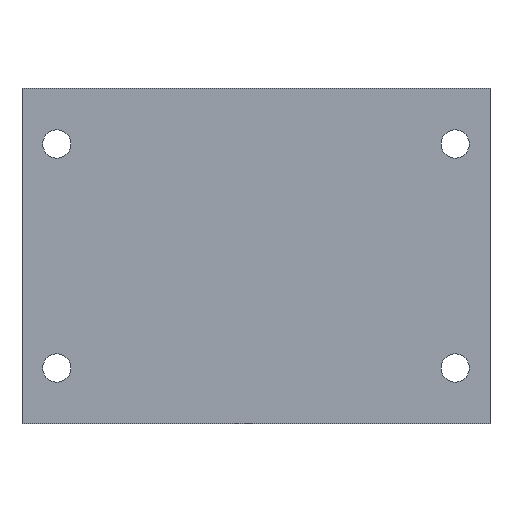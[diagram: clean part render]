
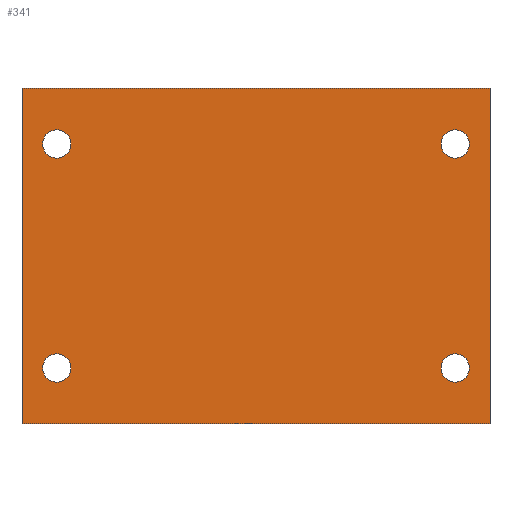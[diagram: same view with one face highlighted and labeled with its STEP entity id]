
A CAD part, front view. The second image highlights one B-rep face of the part: STEP entity #341.
In plain terms, the highlighted planar face has unit normal (0, -1, 0).
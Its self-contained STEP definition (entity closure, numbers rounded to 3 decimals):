
#3 = EDGE_CURVE ( 'NONE', #94, #638, #266, .T. ) ;
#5 = AXIS2_PLACEMENT_3D ( 'NONE', #333, #178, #104 ) ;
#12 = CARTESIAN_POINT ( 'NONE',  ( -36.35, 0., 7.585 ) ) ;
#13 = ORIENTED_EDGE ( 'NONE', *, *, #573, .F. ) ;
#16 = DIRECTION ( 'NONE',  ( 0., 1., 0. ) ) ;
#19 = CARTESIAN_POINT ( 'NONE',  ( -36.35, 0., 51.04 ) ) ;
#20 = EDGE_LOOP ( 'NONE', ( #157, #542 ) ) ;
#23 = DIRECTION ( 'NONE',  ( 1., 0., 0. ) ) ;
#37 = LINE ( 'NONE', #315, #220 ) ;
#68 = FACE_BOUND ( 'NONE', #20, .T. ) ;
#78 = EDGE_CURVE ( 'NONE', #864, #141, #716, .T. ) ;
#80 = CIRCLE ( 'NONE', #857, 2.585 ) ;
#82 = DIRECTION ( 'NONE',  ( 0., 1., 0. ) ) ;
#88 = VERTEX_POINT ( 'NONE', #299 ) ;
#93 = DIRECTION ( 'NONE',  ( -1., 0., 0. ) ) ;
#94 = VERTEX_POINT ( 'NONE', #12 ) ;
#104 = DIRECTION ( 'NONE',  ( -1., 0., 0. ) ) ;
#118 = PLANE ( 'NONE',  #5 ) ;
#120 = VERTEX_POINT ( 'NONE', #506 ) ;
#121 = CARTESIAN_POINT ( 'NONE',  ( 36.35, 0., 53.625 ) ) ;
#141 = VERTEX_POINT ( 'NONE', #641 ) ;
#149 = DIRECTION ( 'NONE',  ( -1., 0., 0. ) ) ;
#157 = ORIENTED_EDGE ( 'NONE', *, *, #277, .T. ) ;
#167 = CARTESIAN_POINT ( 'NONE',  ( -36.35, 0., 10.17 ) ) ;
#178 = DIRECTION ( 'NONE',  ( 0., 1., 0. ) ) ;
#185 = EDGE_LOOP ( 'NONE', ( #202, #876 ) ) ;
#189 = DIRECTION ( 'NONE',  ( 0., 1., 0. ) ) ;
#193 = CARTESIAN_POINT ( 'NONE',  ( 42.7, 0., 61.21 ) ) ;
#202 = ORIENTED_EDGE ( 'NONE', *, *, #339, .T. ) ;
#213 = LINE ( 'NONE', #372, #755 ) ;
#217 = FACE_BOUND ( 'NONE', #185, .T. ) ;
#220 = VECTOR ( 'NONE', #454, 1000. ) ;
#262 = CARTESIAN_POINT ( 'NONE',  ( 36.35, 0., 51.04 ) ) ;
#266 = CIRCLE ( 'NONE', #616, 2.585 ) ;
#273 = ORIENTED_EDGE ( 'NONE', *, *, #659, .T. ) ;
#277 = EDGE_CURVE ( 'NONE', #438, #561, #671, .T. ) ;
#299 = CARTESIAN_POINT ( 'NONE',  ( 36.35, 0., 48.455 ) ) ;
#314 = CARTESIAN_POINT ( 'NONE',  ( 36.35, 0., 10.17 ) ) ;
#315 = CARTESIAN_POINT ( 'NONE',  ( -42.7, 0., 0. ) ) ;
#333 = CARTESIAN_POINT ( 'NONE',  ( -42.7, 0., 61.21 ) ) ;
#339 = EDGE_CURVE ( 'NONE', #466, #88, #80, .T. ) ;
#341 = ADVANCED_FACE ( 'NONE', ( #602, #217, #68, #741, #442 ), #118, .F. ) ;
#346 = CARTESIAN_POINT ( 'NONE',  ( 36.35, 0., 7.585 ) ) ;
#348 = ORIENTED_EDGE ( 'NONE', *, *, #3, .T. ) ;
#349 = CIRCLE ( 'NONE', #496, 2.585 ) ;
#355 = EDGE_CURVE ( 'NONE', #88, #466, #612, .T. ) ;
#357 = DIRECTION ( 'NONE',  ( 0., 1., 0. ) ) ;
#372 = CARTESIAN_POINT ( 'NONE',  ( -42.7, 0., 61.21 ) ) ;
#374 = DIRECTION ( 'NONE',  ( 0., 1., 0. ) ) ;
#382 = CIRCLE ( 'NONE', #812, 2.585 ) ;
#399 = DIRECTION ( 'NONE',  ( -1., 0., 0. ) ) ;
#410 = ORIENTED_EDGE ( 'NONE', *, *, #748, .T. ) ;
#414 = CARTESIAN_POINT ( 'NONE',  ( 36.35, 0., 10.17 ) ) ;
#427 = CARTESIAN_POINT ( 'NONE',  ( -36.35, 0., 51.04 ) ) ;
#428 = AXIS2_PLACEMENT_3D ( 'NONE', #414, #908, #484 ) ;
#431 = ORIENTED_EDGE ( 'NONE', *, *, #78, .T. ) ;
#437 = DIRECTION ( 'NONE',  ( -1., 0., 0. ) ) ;
#438 = VERTEX_POINT ( 'NONE', #840 ) ;
#442 = FACE_OUTER_BOUND ( 'NONE', #680, .T. ) ;
#449 = AXIS2_PLACEMENT_3D ( 'NONE', #477, #189, #399 ) ;
#454 = DIRECTION ( 'NONE',  ( 1., 0., 0. ) ) ;
#466 = VERTEX_POINT ( 'NONE', #121 ) ;
#469 = DIRECTION ( 'NONE',  ( -1., 0., 0. ) ) ;
#473 = EDGE_LOOP ( 'NONE', ( #410, #348 ) ) ;
#477 = CARTESIAN_POINT ( 'NONE',  ( 36.35, 0., 51.04 ) ) ;
#483 = VERTEX_POINT ( 'NONE', #904 ) ;
#484 = DIRECTION ( 'NONE',  ( -1., 0., 0. ) ) ;
#496 = AXIS2_PLACEMENT_3D ( 'NONE', #167, #16, #437 ) ;
#506 = CARTESIAN_POINT ( 'NONE',  ( 42.7, 0., 61.21 ) ) ;
#514 = DIRECTION ( 'NONE',  ( -1., 0., 0. ) ) ;
#536 = EDGE_CURVE ( 'NONE', #561, #438, #732, .T. ) ;
#538 = VERTEX_POINT ( 'NONE', #623 ) ;
#542 = ORIENTED_EDGE ( 'NONE', *, *, #536, .T. ) ;
#548 = AXIS2_PLACEMENT_3D ( 'NONE', #314, #814, #93 ) ;
#561 = VERTEX_POINT ( 'NONE', #346 ) ;
#570 = CARTESIAN_POINT ( 'NONE',  ( -42.7, 0., 61.21 ) ) ;
#573 = EDGE_CURVE ( 'NONE', #120, #483, #872, .T. ) ;
#579 = DIRECTION ( 'NONE',  ( -1., 0., 0. ) ) ;
#599 = CARTESIAN_POINT ( 'NONE',  ( -36.35, 0., 48.455 ) ) ;
#600 = DIRECTION ( 'NONE',  ( 0., 1., 0. ) ) ;
#602 = FACE_BOUND ( 'NONE', #845, .T. ) ;
#607 = LINE ( 'NONE', #570, #865 ) ;
#608 = ORIENTED_EDGE ( 'NONE', *, *, #897, .T. ) ;
#612 = CIRCLE ( 'NONE', #449, 2.585 ) ;
#616 = AXIS2_PLACEMENT_3D ( 'NONE', #730, #374, #514 ) ;
#623 = CARTESIAN_POINT ( 'NONE',  ( -42.7, 0., 0. ) ) ;
#626 = ORIENTED_EDGE ( 'NONE', *, *, #676, .T. ) ;
#638 = VERTEX_POINT ( 'NONE', #708 ) ;
#641 = CARTESIAN_POINT ( 'NONE',  ( -36.35, 0., 53.625 ) ) ;
#648 = AXIS2_PLACEMENT_3D ( 'NONE', #19, #82, #579 ) ;
#659 = EDGE_CURVE ( 'NONE', #843, #538, #607, .T. ) ;
#671 = CIRCLE ( 'NONE', #548, 2.585 ) ;
#676 = EDGE_CURVE ( 'NONE', #141, #864, #382, .T. ) ;
#680 = EDGE_LOOP ( 'NONE', ( #608, #13, #853, #273 ) ) ;
#708 = CARTESIAN_POINT ( 'NONE',  ( -36.35, 0., 12.755 ) ) ;
#716 = CIRCLE ( 'NONE', #648, 2.585 ) ;
#730 = CARTESIAN_POINT ( 'NONE',  ( -36.35, 0., 10.17 ) ) ;
#732 = CIRCLE ( 'NONE', #428, 2.585 ) ;
#734 = CARTESIAN_POINT ( 'NONE',  ( -42.7, 0., 61.21 ) ) ;
#741 = FACE_BOUND ( 'NONE', #473, .T. ) ;
#748 = EDGE_CURVE ( 'NONE', #638, #94, #349, .T. ) ;
#750 = VECTOR ( 'NONE', #910, 1000. ) ;
#755 = VECTOR ( 'NONE', #23, 1000. ) ;
#812 = AXIS2_PLACEMENT_3D ( 'NONE', #427, #357, #149 ) ;
#814 = DIRECTION ( 'NONE',  ( 0., 1., 0. ) ) ;
#822 = EDGE_CURVE ( 'NONE', #843, #120, #213, .T. ) ;
#840 = CARTESIAN_POINT ( 'NONE',  ( 36.35, 0., 12.755 ) ) ;
#843 = VERTEX_POINT ( 'NONE', #734 ) ;
#845 = EDGE_LOOP ( 'NONE', ( #626, #431 ) ) ;
#852 = DIRECTION ( 'NONE',  ( 0., 0., -1. ) ) ;
#853 = ORIENTED_EDGE ( 'NONE', *, *, #822, .F. ) ;
#857 = AXIS2_PLACEMENT_3D ( 'NONE', #262, #600, #469 ) ;
#864 = VERTEX_POINT ( 'NONE', #599 ) ;
#865 = VECTOR ( 'NONE', #852, 1000. ) ;
#872 = LINE ( 'NONE', #193, #750 ) ;
#876 = ORIENTED_EDGE ( 'NONE', *, *, #355, .T. ) ;
#897 = EDGE_CURVE ( 'NONE', #538, #483, #37, .T. ) ;
#904 = CARTESIAN_POINT ( 'NONE',  ( 42.7, 0., 0. ) ) ;
#908 = DIRECTION ( 'NONE',  ( 0., 1., 0. ) ) ;
#910 = DIRECTION ( 'NONE',  ( 0., 0., -1. ) ) ;
